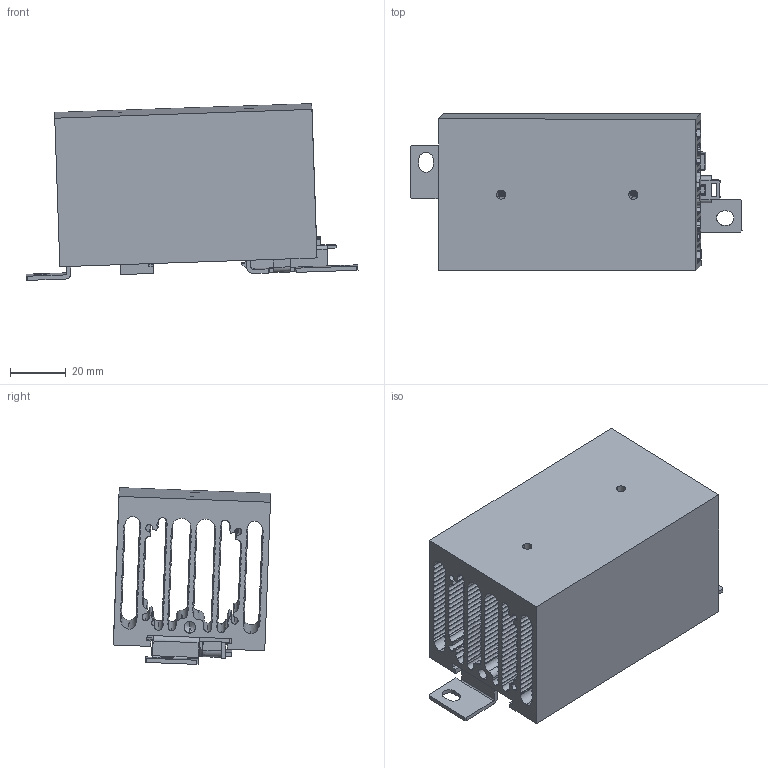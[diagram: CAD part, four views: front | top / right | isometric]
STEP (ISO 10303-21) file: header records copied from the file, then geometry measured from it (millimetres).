
FILE_DESCRIPTION (( 'STEP AP214' ), '1' );
FILE_NAME ('HS_005.STEP', '2021-10-11T09:07:09', ( '' ), ( '' ), 'SwSTEP 2.0', 'SolidWorks 2016', '' );
FILE_SCHEMA (( 'AUTOMOTIVE_DESIGN' ));
Length unit declared in the file: millimetre
Products named in the file (1): HS_005
Bounding box: 119.22 x 56.46 x 63.47 mm (x, y, z)
Surface area: 86570.4 mm2 (no closed solid volume)
Topology: 0 solids, 10 shells, 717 faces, 2225 edges, 1492 vertices
Faces by surface type: cylinder 536, plane 158, bspline 21, cone 2
Entity records: 26212 total; most frequent: CARTESIAN_POINT 5604, DIRECTION 4659, ORIENTED_EDGE 4202, EDGE_CURVE 2204, AXIS2_PLACEMENT_3D 1800, VERTEX_POINT 1490, CIRCLE 1103, VECTOR 1059
